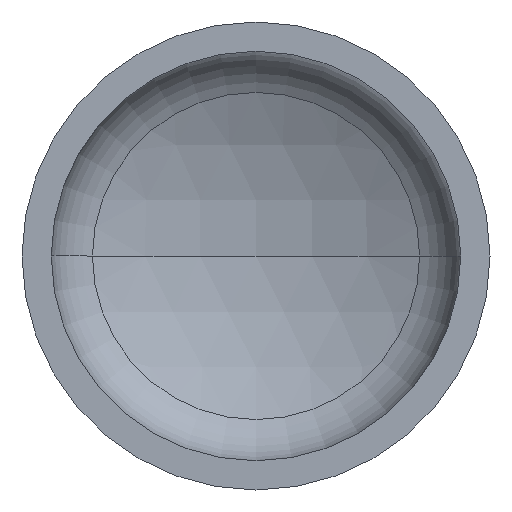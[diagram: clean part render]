
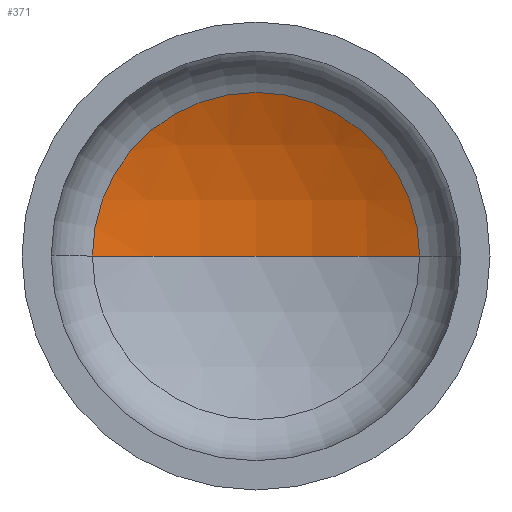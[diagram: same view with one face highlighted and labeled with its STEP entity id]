
A CAD part, front view. The second image highlights one B-rep face of the part: STEP entity #371.
In plain terms, the highlighted spherical face has radius 640 mm.
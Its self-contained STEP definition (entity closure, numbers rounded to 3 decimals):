
#19 = VERTEX_POINT ( 'NONE', #89 ) ;
#28 = VERTEX_POINT ( 'NONE', #223 ) ;
#46 = VERTEX_POINT ( 'NONE', #230 ) ;
#51 = CIRCLE ( 'NONE', #99, 640. ) ;
#56 = ORIENTED_EDGE ( 'NONE', *, *, #237, .T. ) ;
#64 = CIRCLE ( 'NONE', #122, 640. ) ;
#77 = EDGE_LOOP ( 'NONE', ( #209, #102, #56 ) ) ;
#89 = CARTESIAN_POINT ( 'NONE',  ( 0., 326.751, 0. ) ) ;
#96 = DIRECTION ( 'NONE',  ( 1., 0., 0. ) ) ;
#98 = DIRECTION ( 'NONE',  ( 0., 0., 1. ) ) ;
#99 = AXIS2_PLACEMENT_3D ( 'NONE', #146, #98, #96 ) ;
#102 = ORIENTED_EDGE ( 'NONE', *, *, #238, .T. ) ;
#122 = AXIS2_PLACEMENT_3D ( 'NONE', #175, #335, #390 ) ;
#131 = AXIS2_PLACEMENT_3D ( 'NONE', #375, #176, #399 ) ;
#146 = CARTESIAN_POINT ( 'NONE',  ( 0., -313.249, 0. ) ) ;
#158 = CIRCLE ( 'NONE', #131, 279.612 ) ;
#167 = AXIS2_PLACEMENT_3D ( 'NONE', #193, #308, #325 ) ;
#175 = CARTESIAN_POINT ( 'NONE',  ( 0., -313.249, 0. ) ) ;
#176 = DIRECTION ( 'NONE',  ( 0., -1., 0. ) ) ;
#193 = CARTESIAN_POINT ( 'NONE',  ( 0., -313.249, 0. ) ) ;
#204 = FACE_OUTER_BOUND ( 'NONE', #77, .T. ) ;
#209 = ORIENTED_EDGE ( 'NONE', *, *, #248, .F. ) ;
#223 = CARTESIAN_POINT ( 'NONE',  ( 279.612, 262.439, 0. ) ) ;
#230 = CARTESIAN_POINT ( 'NONE',  ( -279.612, 262.439, 0. ) ) ;
#237 = EDGE_CURVE ( 'NONE', #28, #46, #158, .T. ) ;
#238 = EDGE_CURVE ( 'NONE', #19, #28, #64, .T. ) ;
#248 = EDGE_CURVE ( 'NONE', #19, #46, #51, .T. ) ;
#308 = DIRECTION ( 'NONE',  ( 0., 0., -1. ) ) ;
#325 = DIRECTION ( 'NONE',  ( -1., 0., 0. ) ) ;
#335 = DIRECTION ( 'NONE',  ( 0., 0., -1. ) ) ;
#371 = ADVANCED_FACE ( 'NONE', ( #204 ), #407, .F. ) ;
#375 = CARTESIAN_POINT ( 'NONE',  ( 0., 262.439, 0. ) ) ;
#390 = DIRECTION ( 'NONE',  ( -1., 0., 0. ) ) ;
#399 = DIRECTION ( 'NONE',  ( 1., 0., 0. ) ) ;
#407 = SPHERICAL_SURFACE ( 'NONE', #167, 640. ) ;
